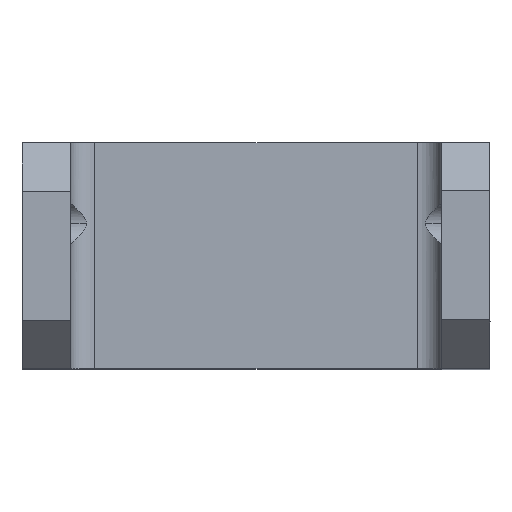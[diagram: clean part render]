
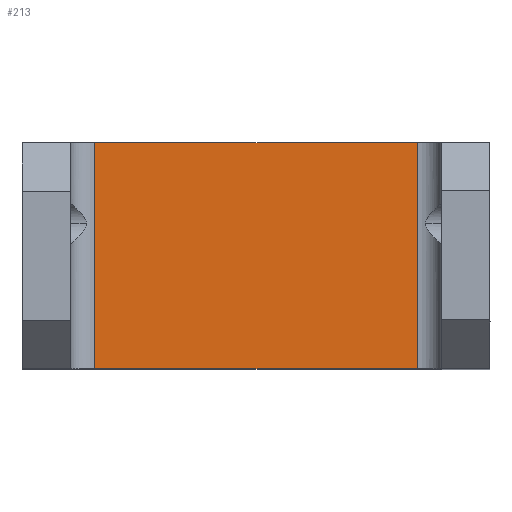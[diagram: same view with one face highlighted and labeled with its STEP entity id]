
A CAD part, top view. The second image highlights one B-rep face of the part: STEP entity #213.
In plain terms, the highlighted planar face has unit normal (0, 0, 1).
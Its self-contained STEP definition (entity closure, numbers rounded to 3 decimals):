
#213=ADVANCED_FACE('',(#319),#1119,.T.);
#319=FACE_OUTER_BOUND('',#474,.F.);
#474=EDGE_LOOP('',(#734,#735,#736,#737));
#734=ORIENTED_EDGE('',*,*,#2022,.F.);
#735=ORIENTED_EDGE('',*,*,#1996,.T.);
#736=ORIENTED_EDGE('',*,*,#2023,.T.);
#737=ORIENTED_EDGE('',*,*,#2016,.F.);
#1119=PLANE('',#2760);
#1996=EDGE_CURVE('',#2559,#2558,#2238,.T.);
#2016=EDGE_CURVE('',#2543,#2542,#2256,.T.);
#2022=EDGE_CURVE('',#2559,#2543,#2261,.T.);
#2023=EDGE_CURVE('',#2558,#2542,#2262,.T.);
#2238=LINE('',#3685,#2380);
#2256=LINE('',#3705,#2398);
#2261=LINE('',#3711,#2403);
#2262=LINE('',#3712,#2404);
#2380=VECTOR('',#2960,28.);
#2398=VECTOR('',#2982,28.);
#2403=VECTOR('',#2989,39.962);
#2404=VECTOR('',#2990,39.962);
#2542=VERTEX_POINT('',#3523);
#2543=VERTEX_POINT('',#3524);
#2558=VERTEX_POINT('',#3539);
#2559=VERTEX_POINT('',#3540);
#2760=AXIS2_PLACEMENT_3D('',#3923,#3239,#3240);
#2960=DIRECTION('',(0.,-1.,0.));
#2982=DIRECTION('',(0.,-1.,0.));
#2989=DIRECTION('',(-1.,0.,0.));
#2990=DIRECTION('',(-1.,0.,0.));
#3239=DIRECTION('',(0.,0.,1.));
#3240=DIRECTION('',(-1.,0.,0.));
#3523=CARTESIAN_POINT('',(177.288,120.394,484.525));
#3524=CARTESIAN_POINT('',(177.288,148.394,484.525));
#3539=CARTESIAN_POINT('',(217.25,120.394,484.525));
#3540=CARTESIAN_POINT('',(217.25,148.394,484.525));
#3685=CARTESIAN_POINT('',(217.25,148.394,484.525));
#3705=CARTESIAN_POINT('',(177.288,148.394,484.525));
#3711=CARTESIAN_POINT('',(217.25,148.394,484.525));
#3712=CARTESIAN_POINT('',(217.25,120.394,484.525));
#3923=CARTESIAN_POINT('',(220.71,148.854,484.525));
